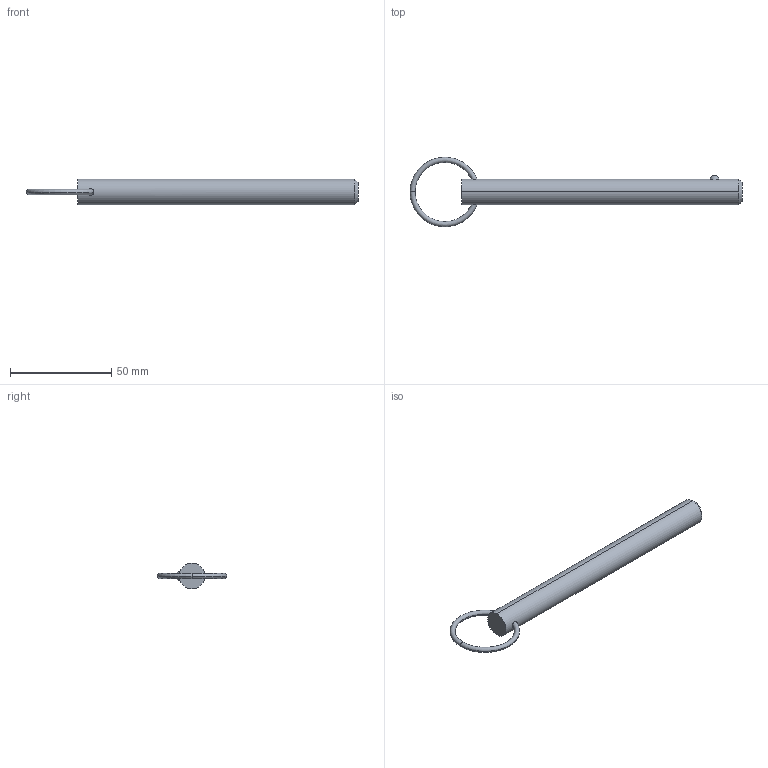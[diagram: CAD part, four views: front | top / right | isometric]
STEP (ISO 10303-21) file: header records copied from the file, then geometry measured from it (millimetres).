
FILE_DESCRIPTION (( 'STEP AP203' ), '1' );
FILE_NAME ('33012.W5045.step', '2024-11-01T14:13:39', ( '' ), ( '' ), 'SwSTEP 2.0', 'SolidWorks 2019', '' );
FILE_SCHEMA (( 'CONFIG_CONTROL_DESIGN' ));
Length unit declared in the file: millimetre
Products named in the file (3): Part1_33012.W5045; 33012.W5045; Part2_33012.W5045
Assembly tree (2 placements, depth 2):
  33012.W5045
    Part1_33012.W5045
    Part2_33012.W5045
Bounding box: 163.59 x 34.29 x 12.7 mm (x, y, z)
Volume: 17870.9 mm3; surface area: 6642.1 mm2
Topology: 2 solids, 2 shells, 16 faces, 31 edges, 18 vertices
Faces by surface type: torus 8, sphere 2, cone 2, cylinder 2, plane 2
Entity records: 885 total; most frequent: CARTESIAN_POINT 242, DIRECTION 88, ORIENTED_EDGE 62, AXIS2_PLACEMENT_3D 42, EDGE_CURVE 31, PERSON_AND_ORGANIZATION 26, CIRCLE 21, COORDINATED_UNIVERSAL_TIME_OFFSET 19
